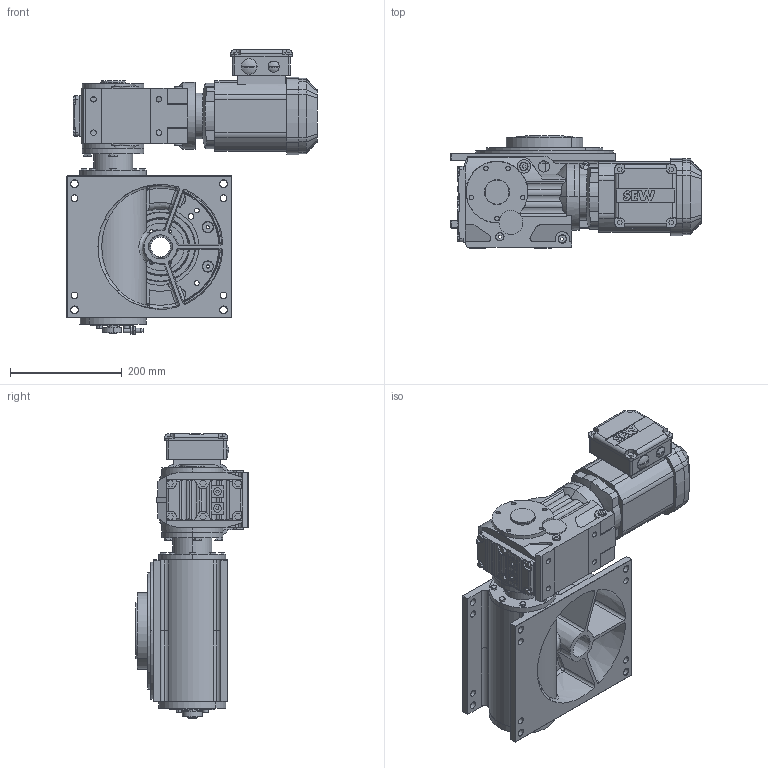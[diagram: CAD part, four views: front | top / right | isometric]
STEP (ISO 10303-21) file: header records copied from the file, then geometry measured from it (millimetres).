
FILE_DESCRIPTION (( 'STEP AP214' ), '1' );
FILE_NAME ('M210_SEW_KA37DRE80M4_D1_08.STEP', '2020-06-17T03:57:54', ( '' ), ( '' ), 'SwSTEP 2.0', 'SolidWorks 2020', '' );
FILE_SCHEMA (( 'AUTOMOTIVE_DESIGN' ));
Length unit declared in the file: millimetre
Products named in the file (1): M210_SEW_KA37DRE80M4_D1_08
Bounding box: 449 x 201 x 510.5 mm (x, y, z)
Surface area: 844929.7 mm2 (no closed solid volume)
Topology: 0 solids, 68 shells, 1471 faces, 4431 edges, 2953 vertices
Faces by surface type: plane 645, cylinder 476, cone 188, bspline 105, torus 53, sphere 4
Entity records: 76377 total; most frequent: CARTESIAN_POINT 21198, DIRECTION 8099, ORIENTED_EDGE 7583, EDGE_CURVE 4405, VERTEX_POINT 2953, AXIS2_PLACEMENT_3D 2948, VECTOR 2203, LINE 2203
